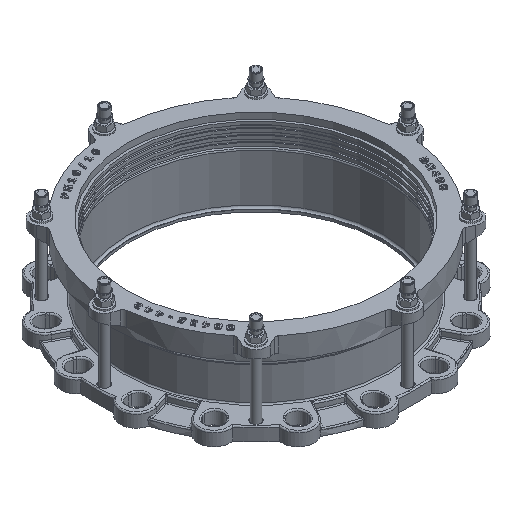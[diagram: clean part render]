
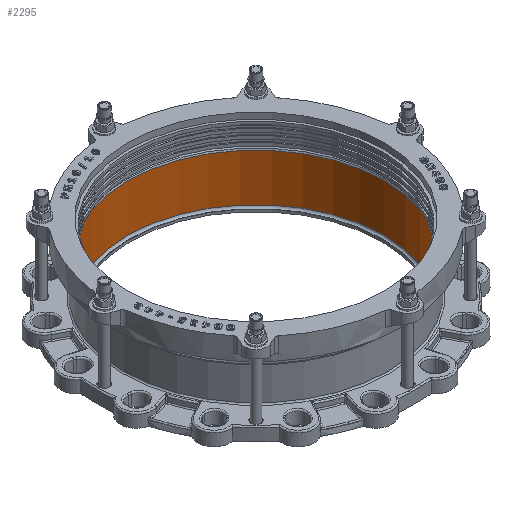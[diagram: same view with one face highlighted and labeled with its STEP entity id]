
A CAD part, isometric view. The second image highlights one B-rep face of the part: STEP entity #2295.
In plain terms, the highlighted cylindrical face has radius 221 mm (diameter 442 mm), a full revolution.
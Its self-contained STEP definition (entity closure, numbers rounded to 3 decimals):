
#2295=ADVANCED_FACE('',(#15204,#15206),#15208,.F.);
#15204=FACE_OUTER_BOUND('',#15205,.T.);
#15205=EDGE_LOOP('',(#22335));
#15206=FACE_OUTER_BOUND('',#15207,.T.);
#15207=EDGE_LOOP('',(#22336));
#15208=CYLINDRICAL_SURFACE('',#15209,221.);
#15209=AXIS2_PLACEMENT_3D('',#15210,#15211,#15212);
#15210=CARTESIAN_POINT('',(0.,0.,4.));
#15211=DIRECTION('',(0.,0.,1.));
#15212=DIRECTION('',(-1.,0.,0.));
#22335=ORIENTED_EDGE('',*,*,#27525,.F.);
#22336=ORIENTED_EDGE('',*,*,#27524,.T.);
#27524=EDGE_CURVE('',#31441,#31441,#31442,.F.);
#27525=EDGE_CURVE('',#31443,#31443,#31444,.T.);
#31441=VERTEX_POINT('',#46089);
#31442=CIRCLE('',#46090,221.);
#31443=VERTEX_POINT('',#46094);
#31444=CIRCLE('',#46095,221.);
#46089=CARTESIAN_POINT('',(0.,221.,7.5));
#46090=AXIS2_PLACEMENT_3D('',#46091,#46092,#46093);
#46091=CARTESIAN_POINT('',(0.,0.,7.5));
#46092=DIRECTION('',(0.,0.,1.));
#46093=DIRECTION('',(0.,1.,0.));
#46094=CARTESIAN_POINT('',(0.,221.,88.75));
#46095=AXIS2_PLACEMENT_3D('',#46096,#46097,#46098);
#46096=CARTESIAN_POINT('',(0.,0.,88.75));
#46097=DIRECTION('',(0.,0.,-1.));
#46098=DIRECTION('',(0.,1.,0.));
